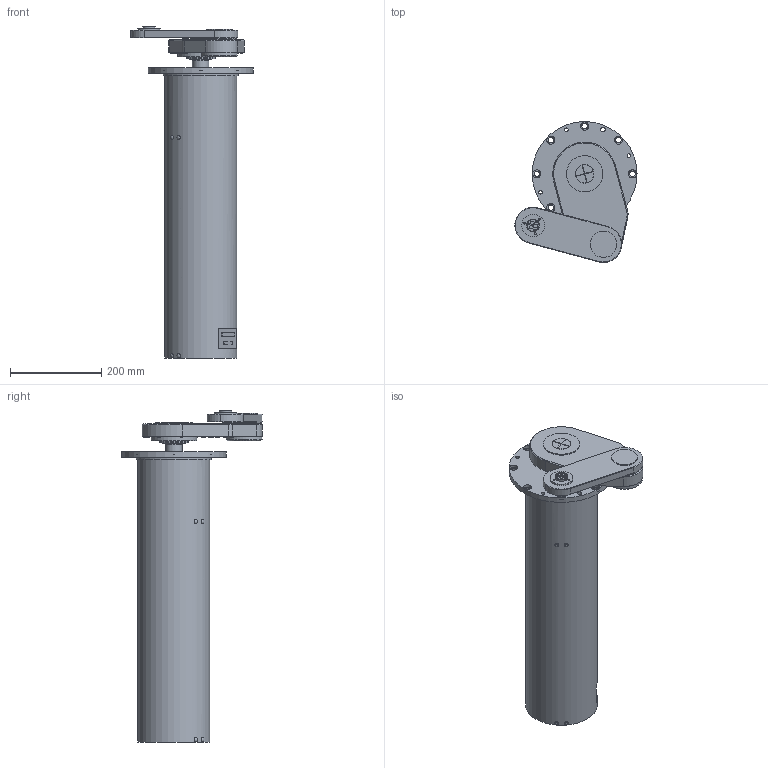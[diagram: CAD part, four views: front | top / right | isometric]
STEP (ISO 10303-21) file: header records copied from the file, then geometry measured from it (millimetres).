
FILE_DESCRIPTION(/* description */ (''),/* implementation_level */ '2;1');
FILE_NAME(/* name */ 'C:\Users\h-mitaka\Desktop\新しいフォルダー\3D-05617B\SVCR3160-020-PM-05617B.stp',/* time_stamp */ '2018-04-05T14:49:08+09:00',/* author */ ('h-mitaka'),/* organization */ (''),/* preprocessor_version */ 'ST-DEVELOPER v16.13',/* originating_system */ 'Autodesk Inventor 2018',/* authorisation */ '');
FILE_SCHEMA (('AUTOMOTIVE_DESIGN { 1 0 10303 214 3 1 1 }'));
Length unit declared in the file: millimetre
Products named in the file (6): SVCR3160-020-PM-05617B; BODY-TB300; PIPE-SCT300; ARM1; ARM2; FRANGE
Assembly tree (5 placements, depth 2):
  SVCR3160-020-PM-05617B
    BODY-TB300
    PIPE-SCT300
    ARM1
    ARM2
    FRANGE
Bounding box: 268.02 x 309.55 x 729 mm (x, y, z)
Volume: 14089077.8 mm3; surface area: 562013.8 mm2
Topology: 5 solids, 5 shells, 261 faces, 514 edges, 319 vertices
Faces by surface type: plane 118, cylinder 110, cone 20, sphere 8, torus 5
Full cylindrical faces by diameter (mm): 4 x6, 5.5 x16, 8 x7, 9.4 x8, 10 x2, 12 x8, 18 x8, 28 x1, 34 x1, 36 x2, 38 x1, 40 x1, 41 x1, 49.5 x1, 50 x2, 58 x1, 60 x1, 64 x1, 70 x1, 79 x1, 80 x1, 100 x1, 158 x1, 165 x1, 176.1 x1, 183.3 x1, 230 x1
Entity records: 6693 total; most frequent: CARTESIAN_POINT 1262, DIRECTION 1190, ORIENTED_EDGE 840, AXIS2_PLACEMENT_3D 530, EDGE_LOOP 454, EDGE_CURVE 404, VERTEX_POINT 306, FACE_OUTER_BOUND 261
